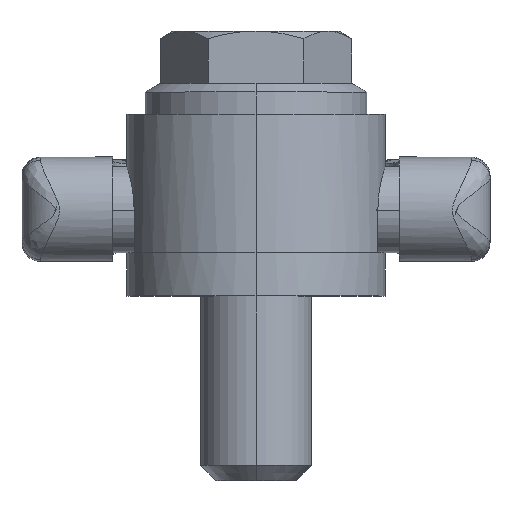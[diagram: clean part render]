
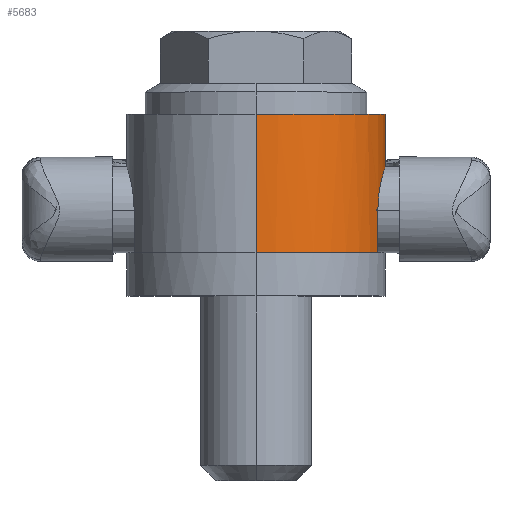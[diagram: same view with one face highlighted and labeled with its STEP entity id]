
A CAD part, top view. The second image highlights one B-rep face of the part: STEP entity #5683.
In plain terms, the highlighted cylindrical face has radius 21 mm (diameter 42 mm), a partial arc.
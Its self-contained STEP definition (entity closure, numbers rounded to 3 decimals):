
#2018 = DIRECTION ( 'NONE',  ( 0., -1., 0. ) ) ;
#2019 = VECTOR ( 'NONE', #2018, 1000. ) ;
#2020 = CARTESIAN_POINT ( 'NONE',  ( 0., 34.5, 21. ) ) ;
#2021 = LINE ( 'NONE', #2020, #2019 ) ;
#2022 = CARTESIAN_POINT ( 'NONE',  ( 19.799, 14., -7. ) ) ;
#2025 = CARTESIAN_POINT ( 'NONE',  ( 19.799, 14., 7. ) ) ;
#2102 = CARTESIAN_POINT ( 'NONE',  ( 0., 7., 21. ) ) ;
#2103 = DIRECTION ( 'NONE',  ( 0., 1., 0. ) ) ;
#2104 = VECTOR ( 'NONE', #2103, 1000. ) ;
#2105 = CARTESIAN_POINT ( 'NONE',  ( 19.799, 34.5, 7. ) ) ;
#2106 = LINE ( 'NONE', #2105, #2104 ) ;
#2129 = DIRECTION ( 'NONE',  ( 0., -1., 0. ) ) ;
#2130 = VECTOR ( 'NONE', #2129, 1000. ) ;
#2131 = CARTESIAN_POINT ( 'NONE',  ( 0., 34.5, -21. ) ) ;
#2132 = LINE ( 'NONE', #2131, #2130 ) ;
#2346 = CARTESIAN_POINT ( 'NONE',  ( 0., 7., -21. ) ) ;
#2347 = DIRECTION ( 'NONE',  ( 0., 0., -1. ) ) ;
#2348 = DIRECTION ( 'NONE',  ( 0., -1., 0. ) ) ;
#2349 = CARTESIAN_POINT ( 'NONE',  ( 0., 7., 0. ) ) ;
#2350 = AXIS2_PLACEMENT_3D ( 'NONE', #2349, #2348, #2347 ) ;
#2351 = CIRCLE ( 'NONE', #2350, 21. ) ;
#2436 = CARTESIAN_POINT ( 'NONE',  ( 0., 29.5, -21. ) ) ;
#2437 = CARTESIAN_POINT ( 'NONE',  ( 0., 29.5, 21. ) ) ;
#2438 = DIRECTION ( 'NONE',  ( 0., 0., 1. ) ) ;
#2439 = DIRECTION ( 'NONE',  ( 0., 1., 0. ) ) ;
#2440 = CARTESIAN_POINT ( 'NONE',  ( 0., 29.5, 0. ) ) ;
#2441 = AXIS2_PLACEMENT_3D ( 'NONE', #2440, #2439, #2438 ) ;
#2442 = DIRECTION ( 'NONE',  ( 0., 0., -1. ) ) ;
#2443 = DIRECTION ( 'NONE',  ( 0., -1., 0. ) ) ;
#2444 = AXIS2_PLACEMENT_3D ( 'NONE', #2446, #2443, #2442 ) ;
#2445 = CIRCLE ( 'NONE', #2441, 21. ) ;
#2446 = CARTESIAN_POINT ( 'NONE',  ( 0., 34.5, 0. ) ) ;
#2447 = CYLINDRICAL_SURFACE ( 'NONE', #2444, 21. ) ;
#2448 = FACE_OUTER_BOUND ( 'NONE', #5684, .T. ) ;
#2490 = CARTESIAN_POINT ( 'NONE',  ( 19.799, 7., 7. ) ) ;
#2491 = DIRECTION ( 'NONE',  ( 0., 0., -1. ) ) ;
#2492 = DIRECTION ( 'NONE',  ( 0., -1., 0. ) ) ;
#2493 = CARTESIAN_POINT ( 'NONE',  ( 0., 7., 0. ) ) ;
#2494 = AXIS2_PLACEMENT_3D ( 'NONE', #2493, #2492, #2491 ) ;
#2497 = CIRCLE ( 'NONE', #2494, 21. ) ;
#2808 = CARTESIAN_POINT ( 'NONE',  ( 20.253, 18.268, 5.553 ) ) ;
#2809 = CARTESIAN_POINT ( 'NONE',  ( 20.215, 18.083, 5.69 ) ) ;
#2810 = CARTESIAN_POINT ( 'NONE',  ( 20.105, 17.515, 6.071 ) ) ;
#2811 = CARTESIAN_POINT ( 'NONE',  ( 20.038, 17.114, 6.286 ) ) ;
#2812 = CARTESIAN_POINT ( 'NONE',  ( 19.953, 16.48, 6.55 ) ) ;
#2813 = CARTESIAN_POINT ( 'NONE',  ( 19.927, 16.261, 6.629 ) ) ;
#2814 = CARTESIAN_POINT ( 'NONE',  ( 19.881, 15.82, 6.763 ) ) ;
#2815 = CARTESIAN_POINT ( 'NONE',  ( 19.862, 15.598, 6.819 ) ) ;
#2816 = CARTESIAN_POINT ( 'NONE',  ( 19.815, 14.923, 6.954 ) ) ;
#2817 = CARTESIAN_POINT ( 'NONE',  ( 19.799, 14.466, 7. ) ) ;
#2818 = CARTESIAN_POINT ( 'NONE',  ( 19.799, 14., 7. ) ) ;
#2825 = CARTESIAN_POINT ( 'NONE',  ( 19.799, 7., -7. ) ) ;
#2826 = DIRECTION ( 'NONE',  ( 0., -1., 0. ) ) ;
#2827 = VECTOR ( 'NONE', #2826, 1000. ) ;
#2828 = CARTESIAN_POINT ( 'NONE',  ( 19.799, 34.5, -7. ) ) ;
#2829 = LINE ( 'NONE', #2828, #2827 ) ;
#2830 = CARTESIAN_POINT ( 'NONE',  ( 19.799, 14., -7. ) ) ;
#2831 = CARTESIAN_POINT ( 'NONE',  ( 19.799, 14.233, -7. ) ) ;
#2832 = CARTESIAN_POINT ( 'NONE',  ( 19.803, 14.465, -6.988 ) ) ;
#2833 = CARTESIAN_POINT ( 'NONE',  ( 19.819, 14.927, -6.942 ) ) ;
#2834 = CARTESIAN_POINT ( 'NONE',  ( 19.832, 15.158, -6.907 ) ) ;
#2835 = CARTESIAN_POINT ( 'NONE',  ( 19.879, 15.837, -6.77 ) ) ;
#2836 = CARTESIAN_POINT ( 'NONE',  ( 19.925, 16.273, -6.636 ) ) ;
#2837 = CARTESIAN_POINT ( 'NONE',  ( 20.038, 17.115, -6.285 ) ) ;
#2838 = CARTESIAN_POINT ( 'NONE',  ( 20.107, 17.524, -6.065 ) ) ;
#2839 = CARTESIAN_POINT ( 'NONE',  ( 20.253, 18.279, -5.558 ) ) ;
#2840 = CARTESIAN_POINT ( 'NONE',  ( 20.33, 18.629, -5.271 ) ) ;
#2841 = CARTESIAN_POINT ( 'NONE',  ( 20.448, 19.112, -4.787 ) ) ;
#2842 = CARTESIAN_POINT ( 'NONE',  ( 20.487, 19.267, -4.617 ) ) ;
#2843 = CARTESIAN_POINT ( 'NONE',  ( 20.563, 19.556, -4.264 ) ) ;
#2844 = CARTESIAN_POINT ( 'NONE',  ( 20.6, 19.692, -4.081 ) ) ;
#2845 = CARTESIAN_POINT ( 'NONE',  ( 20.707, 20.07, -3.515 ) ) ;
#2846 = CARTESIAN_POINT ( 'NONE',  ( 20.773, 20.288, -3.111 ) ) ;
#2847 = CARTESIAN_POINT ( 'NONE',  ( 20.883, 20.642, -2.259 ) ) ;
#2848 = CARTESIAN_POINT ( 'NONE',  ( 20.926, 20.775, -1.821 ) ) ;
#2849 = CARTESIAN_POINT ( 'NONE',  ( 20.985, 20.954, -0.92 ) ) ;
#2850 = CARTESIAN_POINT ( 'NONE',  ( 21., 21., -0.453 ) ) ;
#2851 = CARTESIAN_POINT ( 'NONE',  ( 21., 21., 0.468 ) ) ;
#2852 = CARTESIAN_POINT ( 'NONE',  ( 20.985, 20.954, 0.924 ) ) ;
#2853 = CARTESIAN_POINT ( 'NONE',  ( 20.94, 20.818, 1.603 ) ) ;
#2854 = CARTESIAN_POINT ( 'NONE',  ( 20.921, 20.761, 1.829 ) ) ;
#2855 = CARTESIAN_POINT ( 'NONE',  ( 20.878, 20.626, 2.269 ) ) ;
#2856 = CARTESIAN_POINT ( 'NONE',  ( 20.854, 20.548, 2.484 ) ) ;
#2857 = CARTESIAN_POINT ( 'NONE',  ( 20.772, 20.286, 3.114 ) ) ;
#2858 = CARTESIAN_POINT ( 'NONE',  ( 20.707, 20.07, 3.516 ) ) ;
#2859 = CARTESIAN_POINT ( 'NONE',  ( 20.563, 19.558, 4.28 ) ) ;
#2860 = CARTESIAN_POINT ( 'NONE',  ( 20.486, 19.269, 4.63 ) ) ;
#2861 = CARTESIAN_POINT ( 'NONE',  ( 20.369, 18.789, 5.11 ) ) ;
#2862 = CARTESIAN_POINT ( 'NONE',  ( 20.33, 18.621, 5.263 ) ) ;
#2884 = B_SPLINE_CURVE_WITH_KNOTS ( 'NONE', 3,
 ( #2818, #2817, #2816, #2815, #2814, #2813, #2812, #2811, #2810, #2809, #2808, #2862, #2861, #2860, #2859, #2858, #2857, #2856, #2855, #2854, #2853, #2852, #2851, #2850, #2849, #2848, #2847, #2846, #2845, #2844, #2843, #2842, #2841, #2840, #2839, #2838, #2837, #2836, #2835, #2834, #2833, #2832, #2831, #2830 ),
 .UNSPECIFIED., .F., .F.,
 ( 4, 2, 2, 2, 2, 2, 2, 2, 2, 2, 2, 2, 2, 2, 2, 2, 2, 2, 2, 2, 2, 4 ),
 ( 0., 0.001, 0.002, 0.003, 0.004, 0.005, 0.006, 0.007, 0.008, 0.009, 0.01, 0.011, 0.012, 0.014, 0.015, 0.016, 0.017, 0.018, 0.019, 0.021, 0.021, 0.022 ),
 .UNSPECIFIED. ) ;
#5458 = ORIENTED_EDGE ( 'NONE', *, *, #5459, .F. ) ;
#5459 = EDGE_CURVE ( 'NONE', #5688, #5571, #2132, .T. ) ;
#5524 = VERTEX_POINT ( 'NONE', #2025 ) ;
#5525 = VERTEX_POINT ( 'NONE', #2022 ) ;
#5527 = EDGE_CURVE ( 'NONE', #5687, #5549, #2021, .T. ) ;
#5528 = ORIENTED_EDGE ( 'NONE', *, *, #5741, .F. ) ;
#5546 = ORIENTED_EDGE ( 'NONE', *, *, #5547, .T. ) ;
#5547 = EDGE_CURVE ( 'NONE', #5742, #5524, #2106, .T. ) ;
#5548 = ORIENTED_EDGE ( 'NONE', *, *, #5527, .T. ) ;
#5549 = VERTEX_POINT ( 'NONE', #2102 ) ;
#5569 = ORIENTED_EDGE ( 'NONE', *, *, #5570, .F. ) ;
#5570 = EDGE_CURVE ( 'NONE', #5571, #5774, #2351, .T. ) ;
#5571 = VERTEX_POINT ( 'NONE', #2346 ) ;
#5683 = ADVANCED_FACE ( 'NONE', ( #2448 ), #2447, .T. ) ;
#5684 = EDGE_LOOP ( 'NONE', ( #5685, #5548, #5528, #5546, #5770, #5772, #5569, #5458 ) ) ;
#5685 = ORIENTED_EDGE ( 'NONE', *, *, #5686, .F. ) ;
#5686 = EDGE_CURVE ( 'NONE', #5687, #5688, #2445, .T. ) ;
#5687 = VERTEX_POINT ( 'NONE', #2437 ) ;
#5688 = VERTEX_POINT ( 'NONE', #2436 ) ;
#5741 = EDGE_CURVE ( 'NONE', #5742, #5549, #2497, .T. ) ;
#5742 = VERTEX_POINT ( 'NONE', #2490 ) ;
#5770 = ORIENTED_EDGE ( 'NONE', *, *, #5771, .T. ) ;
#5771 = EDGE_CURVE ( 'NONE', #5524, #5525, #2884, .T. ) ;
#5772 = ORIENTED_EDGE ( 'NONE', *, *, #5773, .T. ) ;
#5773 = EDGE_CURVE ( 'NONE', #5525, #5774, #2829, .T. ) ;
#5774 = VERTEX_POINT ( 'NONE', #2825 ) ;
